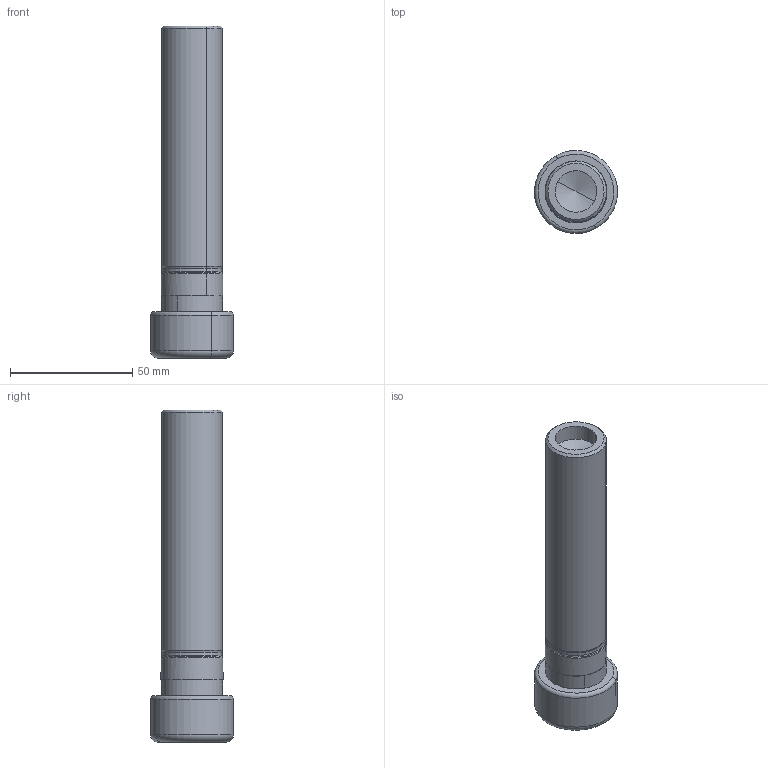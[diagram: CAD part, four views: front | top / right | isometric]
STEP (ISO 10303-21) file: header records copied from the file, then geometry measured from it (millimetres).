
FILE_DESCRIPTION(('CATIA V5 STEP','CAx-IF Rec.Pracs.--- Model Styling and Organization---1.2---2011-12-15'),'2;1');
FILE_NAME('\\nas01\drv1\utils\eitdev\rte\eit\transmagicconvert\db\out\635962239755519582\4507005-L-M.stp','2016-04-14T06:46:27+00:00',('none'),('none'),'CATIA Version 5 Release 21 SP 5 (IN-10)','CATIA V5 STEP AP214','none');
FILE_SCHEMA(('AUTOMOTIVE_DESIGN { 1 0 10303 214 1 1 1 1 }'));
Length unit declared in the file: millimetre
Products named in the file (1): ST 25X100 ER20
Bounding box: 33.99 x 33.99 x 136 mm (x, y, z)
Volume: 62922.2 mm3; surface area: 15463 mm2
Topology: 1 solids, 1 shells, 48 faces, 104 edges, 58 vertices
Faces by surface type: cylinder 20, cone 16, torus 8, plane 4
Entity records: 1152 total; most frequent: ORIENTED_EDGE 200, CARTESIAN_POINT 190, DIRECTION 162, EDGE_CURVE 100, AXIS2_PLACEMENT_3D 96, CIRCLE 64, VERTEX_POINT 58, EDGE_LOOP 52
